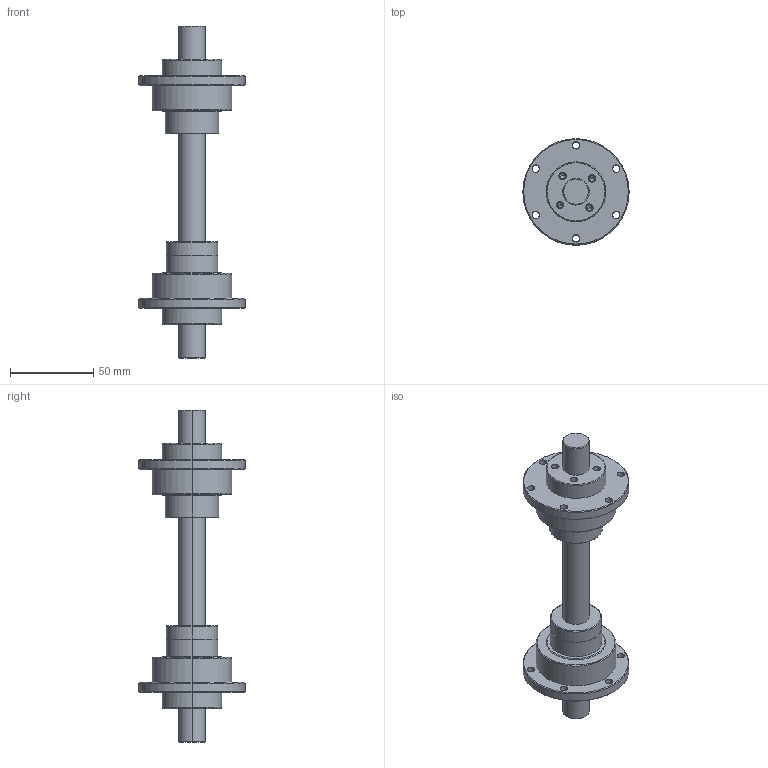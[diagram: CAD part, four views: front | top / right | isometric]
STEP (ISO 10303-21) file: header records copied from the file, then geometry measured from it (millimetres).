
FILE_DESCRIPTION (( 'STEP AP203' ), '1' );
FILE_NAME ('RSSY1616.STEP', '2014-11-13T05:22:00', ( '' ), ( '' ), 'SwSTEP 2.0', 'SolidWorks 2014', '' );
FILE_SCHEMA (( 'CONFIG_CONTROL_DESIGN' ));
Length unit declared in the file: millimetre
Products named in the file (4): SC16; RFSY1616; RLSF16; RSSY1616
Assembly tree (3 placements, depth 2):
  RSSY1616
    SC16
    RFSY1616
    RLSF16
Bounding box: 64 x 64 x 200 mm (x, y, z)
Volume: 157105.4 mm3; surface area: 43586.5 mm2
Topology: 4 solids, 4 shells, 182 faces, 436 edges, 266 vertices
Faces by surface type: cylinder 112, cone 46, plane 22, torus 2
Entity records: 5698 total; most frequent: DIRECTION 1050, CARTESIAN_POINT 870, ORIENTED_EDGE 832, AXIS2_PLACEMENT_3D 446, EDGE_CURVE 416, VERTEX_POINT 266, CIRCLE 258, EDGE_LOOP 236
